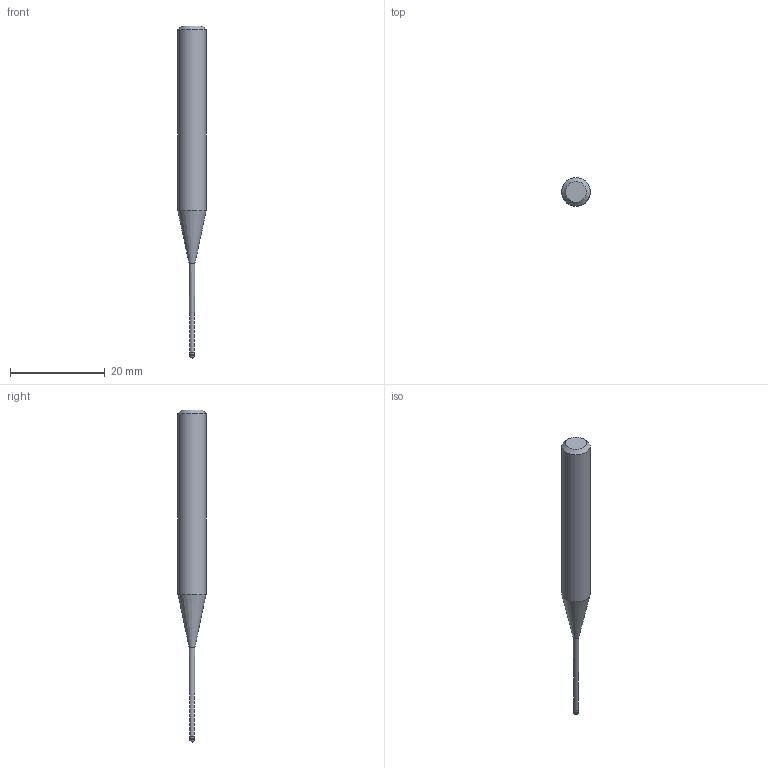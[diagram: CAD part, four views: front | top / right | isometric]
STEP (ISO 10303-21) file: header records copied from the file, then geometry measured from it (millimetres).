
FILE_DESCRIPTION((''),'2;1');
FILE_NAME('C:\Users\nsx150\AppData\Local\Temp\Mastercam 2021\E0ENTZRV18\TEMP.step','2021-09-02T09:55:56',(''),(''),'STEP Write','Mastercam 2021 ... CNC Software, Inc.','');
FILE_SCHEMA(('AUTOMOTIVE_DESIGN'));
Length unit declared in the file: millimetre
Products named in the file (1): None
Bounding box: 6 x 6 x 70 mm (x, y, z)
Volume: 1242.1 mm3; surface area: 949.2 mm2
Topology: 2 solids, 2 shells, 10 faces, 16 edges, 9 vertices
Faces by surface type: plane 3, cylinder 3, cone 3, sphere 1
Full cylindrical faces by diameter (mm): 0.905 x1, 1 x1, 6 x1
Entity records: 232 total; most frequent: DIRECTION 40, CARTESIAN_POINT 28, AXIS2_PLACEMENT_3D 20, ORIENTED_EDGE 16, EDGE_LOOP 16, STYLED_ITEM 13, ADVANCED_FACE 10, FACE_BOUND 9
